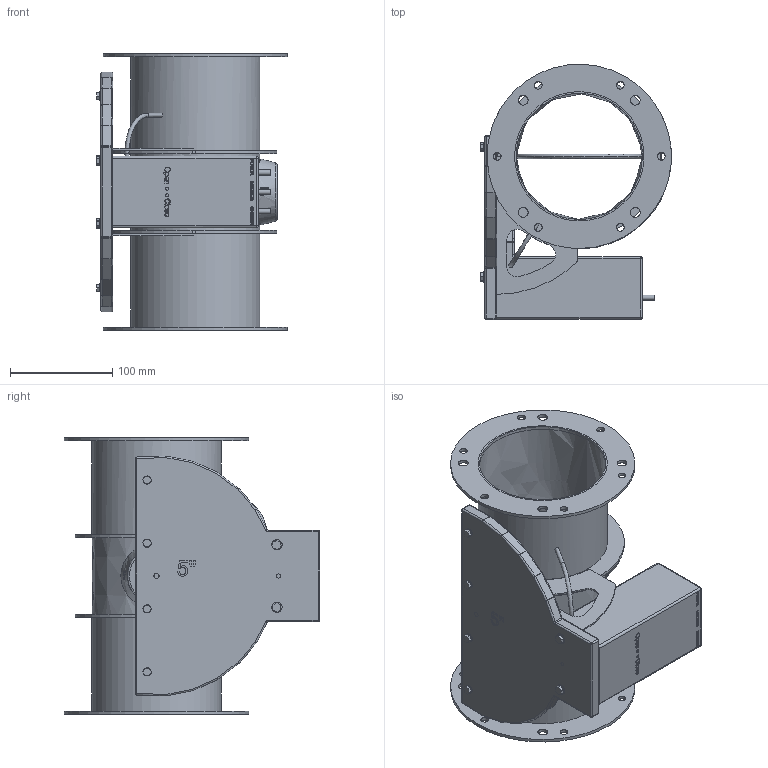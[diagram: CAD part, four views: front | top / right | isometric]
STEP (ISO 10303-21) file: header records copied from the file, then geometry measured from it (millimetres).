
FILE_DESCRIPTION( ('This file contains a STEP AP42 implementation' ,'as created by ZW3D STEP Interface translator.') ,'2;1' );
FILE_NAME( '3D Model-05_2M0 Butterfly Body with drive.stp' ,'201125. 91935', (''), ('ZWCAD Software Co.'), 'Version 1.0', 'ZW3D to STEP translator', '' );
FILE_SCHEMA(('AUTOMOTIVE_DESIGN'));
Length unit declared in the file: millimetre
Products named in the file (1): 0
Bounding box: 186.05 x 249.33 x 270 mm (x, y, z)
Volume: 1440860 mm3; surface area: 483516.8 mm2
Topology: 8 solids, 11 shells, 780 faces, 1991 edges, 1364 vertices
Faces by surface type: bspline 780
Entity records: 30925 total; most frequent: CARTESIAN_POINT 18242, ORIENTED_EDGE 3846, EDGE_CURVE 1923, B_SPLINE_CURVE_WITH_KNOTS 1590, VERTEX_POINT 1237, EDGE_LOOP 908, FACE_OUTER_BOUND 780, ADVANCED_FACE 780
